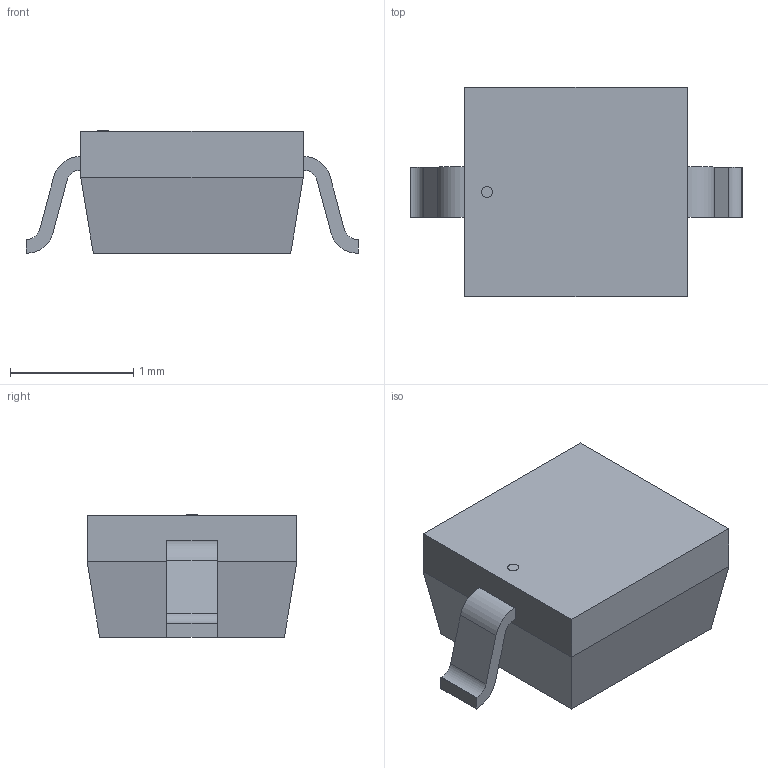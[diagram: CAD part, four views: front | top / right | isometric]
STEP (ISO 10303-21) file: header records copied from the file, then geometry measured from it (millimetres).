
FILE_DESCRIPTION(('STEP AP214'),'1');
FILE_NAME('SOD_16HT1G_ONS','2026-03-22T08:38:44',(''),(''),'','','');
FILE_SCHEMA(('AUTOMOTIVE_DESIGN'));
Length unit declared in the file: millimetre
Products named in the file (1): product
Bounding box: 2.69 x 1.7 x 0.99 mm (x, y, z)
Volume: 2.9 mm3; surface area: 14.2 mm2
Topology: 4 solids, 4 shells, 41 faces, 95 edges, 62 vertices
Faces by surface type: plane 32, cylinder 9
Full cylindrical faces by diameter (mm): 0.09 x1
Entity records: 1273 total; most frequent: DIRECTION 198, ORIENTED_EDGE 188, CARTESIAN_POINT 115, EDGE_CURVE 94, LINE 76, VECTOR 76, VERTEX_POINT 62, AXIS2_PLACEMENT_3D 61
